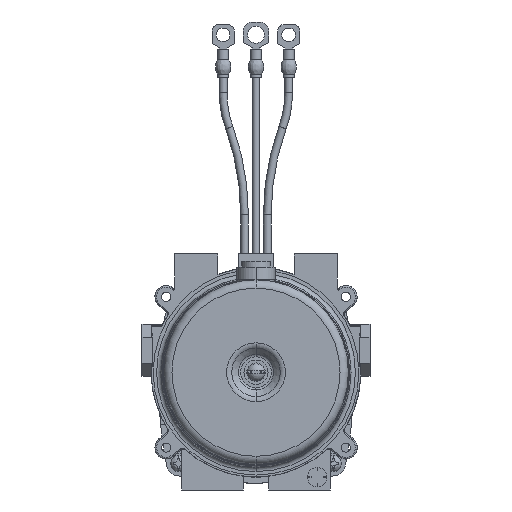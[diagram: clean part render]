
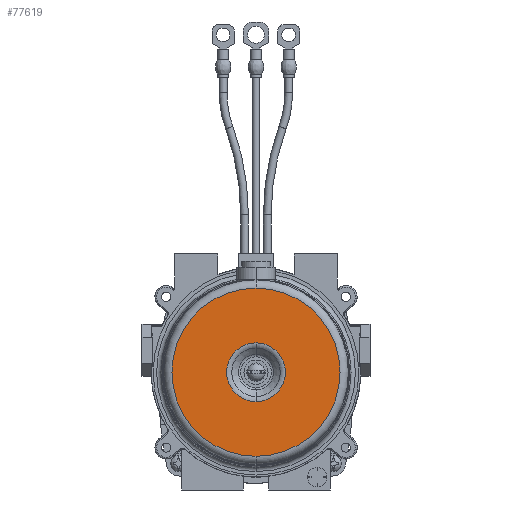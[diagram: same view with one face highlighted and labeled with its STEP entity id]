
A CAD part, front view. The second image highlights one B-rep face of the part: STEP entity #77619.
In plain terms, the highlighted planar face has unit normal (0, -1, 0).
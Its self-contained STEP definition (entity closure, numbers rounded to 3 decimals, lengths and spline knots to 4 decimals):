
#76823=CARTESIAN_POINT('',(0.,-5.405,0.));
#76824=DIRECTION('',(0.,-1.,0.));
#76825=DIRECTION('',(0.,0.,1.));
#76826=AXIS2_PLACEMENT_3D('',#76823,#76824,#76825);
#76828=CARTESIAN_POINT('',(0.,-5.405,0.));
#76829=DIRECTION('',(0.,1.,0.));
#76830=DIRECTION('',(0.,0.,1.));
#76831=AXIS2_PLACEMENT_3D('',#76828,#76829,#76830);
#76833=CARTESIAN_POINT('',(0.,-5.405,0.));
#76834=DIRECTION('',(0.,-1.,0.));
#76835=DIRECTION('',(0.,0.,1.));
#76836=AXIS2_PLACEMENT_3D('',#76833,#76834,#76835);
#77020=CARTESIAN_POINT('',(0.,-5.405,0.));
#77021=DIRECTION('',(0.,1.,0.));
#77022=DIRECTION('',(0.,0.,1.));
#77023=AXIS2_PLACEMENT_3D('',#77020,#77021,#77022);
#77328=CARTESIAN_POINT('',(0.,-5.405,1.635));
#77330=VERTEX_POINT('',#77328);
#77360=CARTESIAN_POINT('',(0.,-5.405,-1.635));
#77362=VERTEX_POINT('',#77360);
#77383=CARTESIAN_POINT('',(0.,-5.405,0.5708));
#77385=VERTEX_POINT('',#77383);
#77389=CARTESIAN_POINT('',(0.,-5.405,-0.5708));
#77391=VERTEX_POINT('',#77389);
#77602=CARTESIAN_POINT('',(0.,-5.405,0.));
#77603=DIRECTION('',(0.,-1.,0.));
#77604=DIRECTION('',(0.,0.,-1.));
#77605=AXIS2_PLACEMENT_3D('',#77602,#77603,#77604);
#77606=PLANE('',#77605);
#77608=ORIENTED_EDGE('',*,*,#77607,.T.);
#77610=ORIENTED_EDGE('',*,*,#77609,.F.);
#77611=EDGE_LOOP('',(#77608,#77610));
#77612=FACE_OUTER_BOUND('',#77611,.F.);
#77614=ORIENTED_EDGE('',*,*,#77613,.T.);
#77616=ORIENTED_EDGE('',*,*,#77615,.F.);
#77617=EDGE_LOOP('',(#77614,#77616));
#77618=FACE_BOUND('',#77617,.F.);
#77619=ADVANCED_FACE('',(#77612,#77618),#77606,.T.);
#76827=CIRCLE('',#76826,0.5708);
#76832=CIRCLE('',#76831,0.5708);
#76837=CIRCLE('',#76836,1.635);
#77024=CIRCLE('',#77023,1.635);
#77607=EDGE_CURVE('',#77330,#77362,#77024,.T.);
#77609=EDGE_CURVE('',#77330,#77362,#76837,.T.);
#77613=EDGE_CURVE('',#77385,#77391,#76827,.T.);
#77615=EDGE_CURVE('',#77385,#77391,#76832,.T.);
